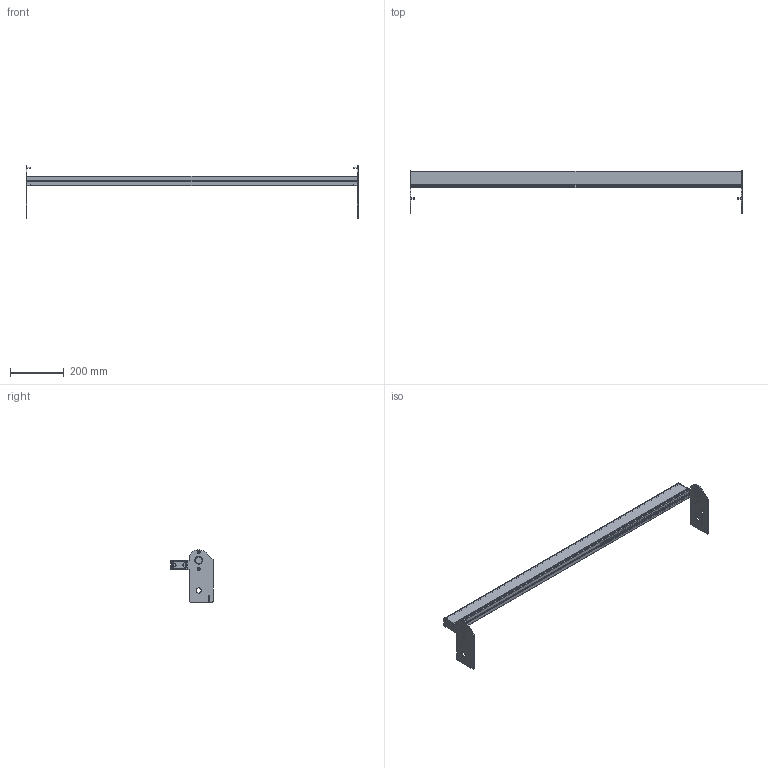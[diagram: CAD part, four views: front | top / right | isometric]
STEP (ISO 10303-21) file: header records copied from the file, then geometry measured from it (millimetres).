
FILE_DESCRIPTION((''),'2;1');
FILE_NAME('350712-48_ASM','2023-03-22T',('jenni.wallner'),(''),'PRO/ENGINEER BY PARAMETRIC TECHNOLOGY CORPORATION, 2012420','PRO/ENGINEER BY PARAMETRIC TECHNOLOGY CORPORATION, 2012420','');
FILE_SCHEMA(('CONFIG_CONTROL_DESIGN'));
Length unit declared in the file: inch
Products named in the file (6): 350669-48; 350667; 350668; 930412M; 930516M; 350712-48_ASM
Assembly tree (11 placements, depth 2):
  350712-48_ASM
    350669-48
    350667
    350668
    930412M  x4
    930516M  x4
Bounding box: 1231.54 x 158.09 x 193.27 mm (x, y, z)
Volume: 1078301.6 mm3; surface area: 698690.8 mm2
Topology: 11 solids, 11 shells, 334 faces, 872 edges, 568 vertices
Faces by surface type: plane 150, cylinder 136, cone 48
Entity records: 7773 total; most frequent: DIRECTION 1398, CARTESIAN_POINT 1317, ORIENTED_EDGE 1288, EDGE_CURVE 644, AXIS2_PLACEMENT_3D 505, VERTEX_POINT 424, VECTOR 388, LINE 388
